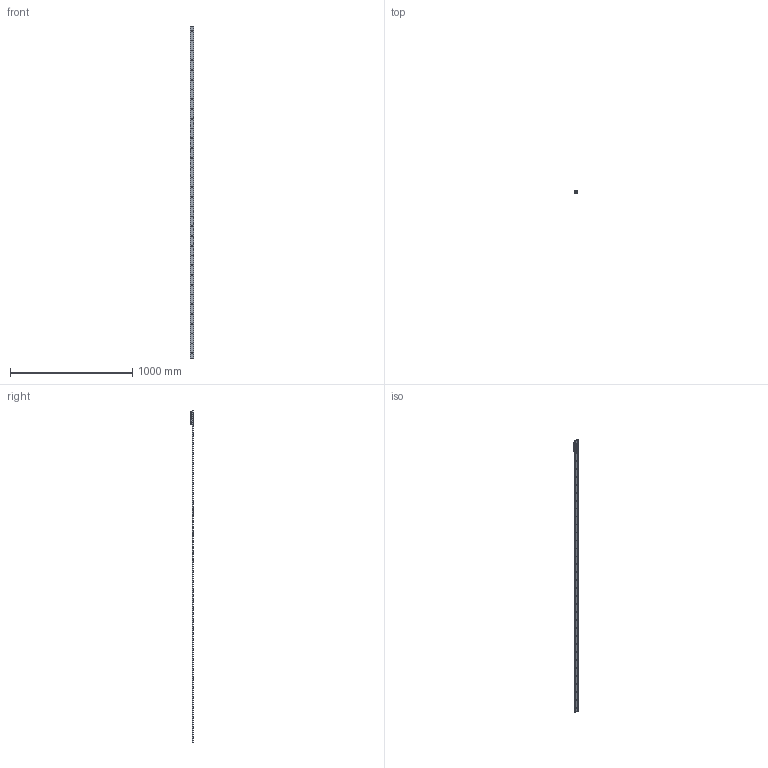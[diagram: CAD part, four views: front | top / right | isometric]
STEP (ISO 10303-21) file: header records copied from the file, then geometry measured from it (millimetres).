
FILE_DESCRIPTION( ( 'STEP AP214' ), '1' );
FILE_NAME( 'p:/temp/worker_22/temp/exporttempdir_796_301_lsrMn/format_1/TGV-02720_1_RV28G-3.stp', '2020-11-20T16:42:22', ( 'License CC BY-ND 4.0' ), ( 'CADENAS' ), ' ', 'PARTsolutions', ' ' );
FILE_SCHEMA( ( 'AUTOMOTIVE_DESIGN { 1 0 10303 214 1 1 1 1 }' ) );
Length unit declared in the file: millimetre
Products named in the file (6): TGV-02720/1/RV28G-3; _TGV28-2720-(3-1); _RV28G-3-slider; _RGNV28R; _RGAV28R; _WR28G-01
Assembly tree (7 placements, depth 2):
  TGV-02720/1/RV28G-3
    _TGV28-2720-(3-1)
    _RV28G-3-slider
    _RGNV28R  x2
    _RGAV28R
    _WR28G-01  x2
Bounding box: 28 x 24 x 2720 mm (x, y, z)
Volume: 429202.7 mm3; surface area: 275832.7 mm2
Topology: 7 solids, 7 shells, 1080 faces, 2815 edges, 1831 vertices
Faces by surface type: plane 657, cylinder 314, cone 74, bspline 26, torus 9
Full cylindrical faces by diameter (mm): 1.27 x4, 2 x2, 2.5 x6, 4 x4, 4.134 x4, 4.2 x3, 5 x3, 5.5 x3, 5.75 x34, 7 x5, 7.5 x1, 8 x6, 10.8 x3, 17 x3, 20.75 x6
Entity records: 26431 total; most frequent: CARTESIAN_POINT 4147, DIRECTION 3540, ORIENTED_EDGE 3198, EDGE_CURVE 1599, AXIS2_PLACEMENT_3D 1375, VERTEX_POINT 1131, EDGE_LOOP 995, LINE 790
